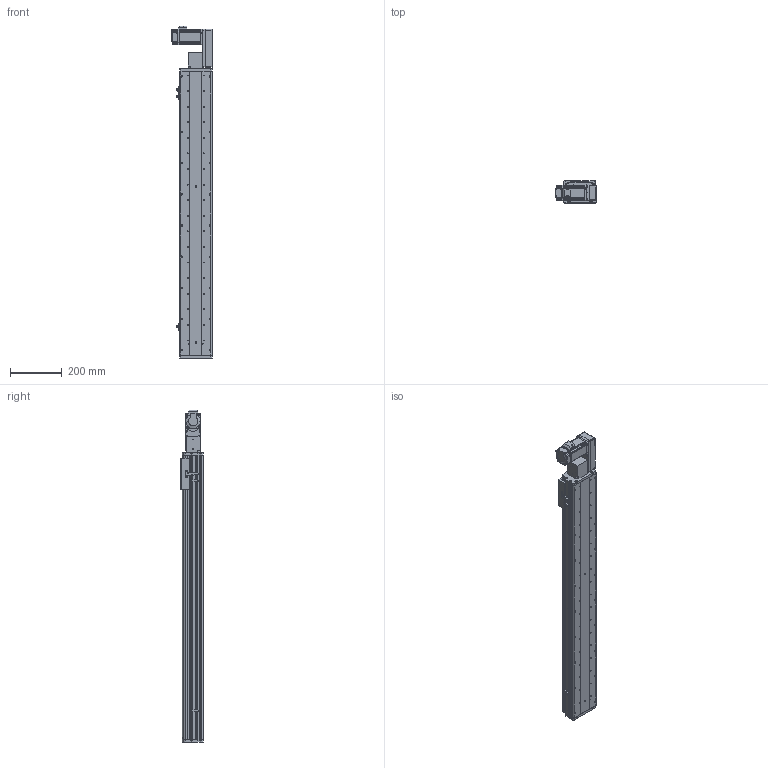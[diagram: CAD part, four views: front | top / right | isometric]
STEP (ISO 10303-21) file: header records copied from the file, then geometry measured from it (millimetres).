
FILE_DESCRIPTION (( 'STEP AP214' ), '1' );
FILE_NAME ('KSD125B-S900-MLB-CM.STEP', '2017-10-21T01:51:22', ( '微软用户' ), ( '微软中国' ), 'SwSTEP 2.0', 'SolidWorks 2014', '' );
FILE_SCHEMA (( 'AUTOMOTIVE_DESIGN' ));
Length unit declared in the file: millimetre
Products named in the file (17): 覜茼え68遵圉猾敕; U倰嫖萇假蚾璃; U倰嫖萇EEㄜSX672; KSD125模组同步带-防撞垫1; 前端板-125宽模组同步带; 125模组同步带-尾端板1; KSD125模组同步带-滑动座1; KSD125B-S900-MLB-CM; 悵誘欶奻狟殏; HTPA30S3M150_A_H6_a佪裝蚚; HTPA30S3M150_A_H6_a萇儂蚚; 100宽马达安装板连板上下折丝杆同步带; 100宽马达安装板同步带左; KSD125模组900行程同步带-防尘盖; 125模组900行程同步带-底板; MHMD042G1CA_2_03; KSD125模组同步带-防撞垫2
Assembly tree (20 placements, depth 2):
  KSD125B-S900-MLB-CM
    KSD125模组同步带-滑动座1
    125模组同步带-尾端板1
    前端板-125宽模组同步带
    KSD125模组同步带-防撞垫1
    U倰嫖萇EEㄜSX672  x3
    U倰嫖萇假蚾璃  x3
    覜茼え68遵圉猾敕
    KSD125模组同步带-防撞垫2
    MHMD042G1CA_2_03
    125模组900行程同步带-底板
    KSD125模组900行程同步带-防尘盖
    100宽马达安装板同步带左
    100宽马达安装板连板上下折丝杆同步带
    HTPA30S3M150_A_H6_a萇儂蚚
    HTPA30S3M150_A_H6_a佪裝蚚
    悵誘欶奻狟殏
Bounding box: 155 x 86 x 1278 mm (x, y, z)
Volume: 3659969 mm3; surface area: 1235760.4 mm2
Topology: 19 solids, 22 shells, 2297 faces, 6655 edges, 4398 vertices
Faces by surface type: cylinder 1444, plane 726, cone 105, bspline 22
Entity records: 81785 total; most frequent: CARTESIAN_POINT 16125, DIRECTION 12712, ORIENTED_EDGE 11830, EDGE_CURVE 5993, AXIS2_PLACEMENT_3D 4917, VERTEX_POINT 3990, LINE 2878, VECTOR 2878
